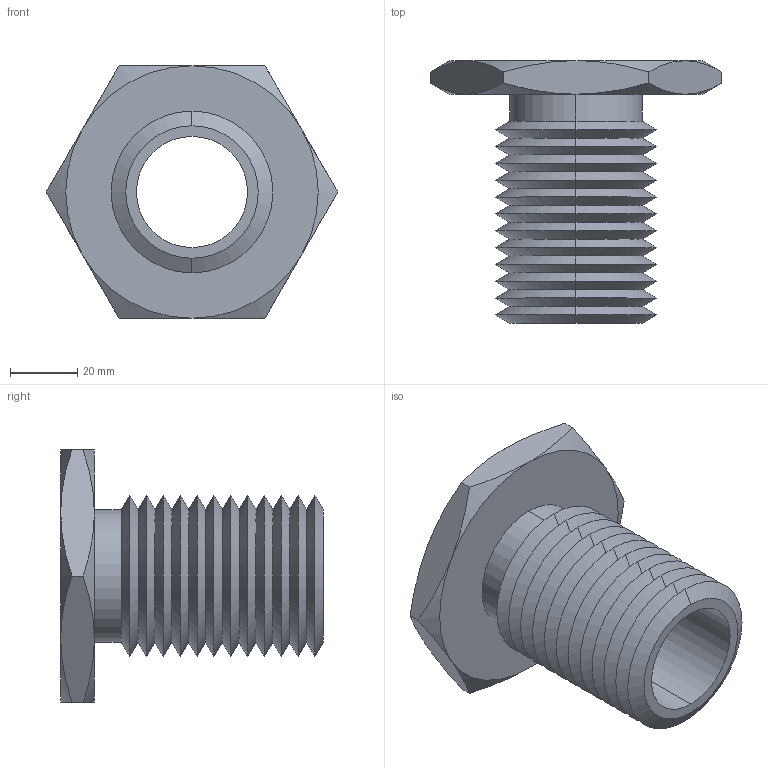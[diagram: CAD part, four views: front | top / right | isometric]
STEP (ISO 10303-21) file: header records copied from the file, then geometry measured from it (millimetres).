
FILE_DESCRIPTION (( 'STEP AP203' ), '1' );
FILE_NAME ('Default.step', '2013-12-08T11:01:55', ( 'User' ), ( '' ), 'SwSTEP 2.0', 'SolidWorks 2009', '' );
FILE_SCHEMA (( 'CONFIG_CONTROL_DESIGN' ));
Length unit declared in the file: millimetre
Products named in the file (1): Default
Bounding box: 86.6 x 78 x 75 mm (x, y, z)
Volume: 80074.2 mm3; surface area: 35489.8 mm2
Topology: 1 solids, 1 shells, 75 faces, 154 edges, 82 vertices
Faces by surface type: cone 62, plane 9, cylinder 4
Entity records: 2123 total; most frequent: CARTESIAN_POINT 480, DIRECTION 352, ORIENTED_EDGE 308, EDGE_CURVE 154, AXIS2_PLACEMENT_3D 146, VERTEX_POINT 82, EDGE_LOOP 78, ADVANCED_FACE 75
